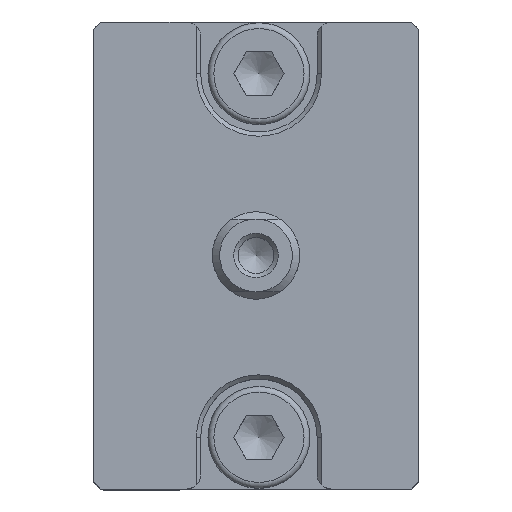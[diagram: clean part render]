
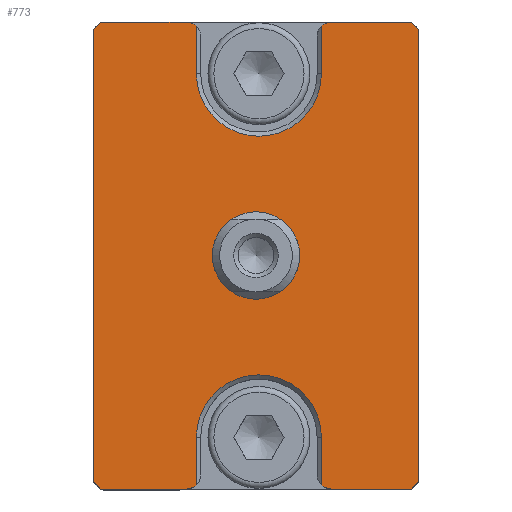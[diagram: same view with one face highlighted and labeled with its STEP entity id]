
A CAD part, top view. The second image highlights one B-rep face of the part: STEP entity #773.
In plain terms, the highlighted planar face has unit normal (0, 0, 1).
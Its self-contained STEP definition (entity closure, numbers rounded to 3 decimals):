
#184=CARTESIAN_POINT('',(10.417,15.55,12.));
#185=VERTEX_POINT('',#184);
#194=CARTESIAN_POINT('',(10.417,-15.55,12.));
#195=VERTEX_POINT('',#194);
#196=CARTESIAN_POINT('',(10.417,15.55,12.));
#197=DIRECTION('',(0.0,-1.0,0.0));
#198=VECTOR('',#197,31.1);
#199=LINE('',#196,#198);
#200=EDGE_CURVE('',#185,#195,#199,.T.);
#462=CARTESIAN_POINT('',(-11.483,-16.05,12.));
#463=VERTEX_POINT('',#462);
#464=CARTESIAN_POINT('',(-11.983,-15.55,12.));
#465=VERTEX_POINT('',#464);
#466=CARTESIAN_POINT('',(-11.483,-16.05,12.));
#467=DIRECTION('',(-0.707,0.707,0.0));
#468=VECTOR('',#467,0.707);
#469=LINE('',#466,#468);
#470=EDGE_CURVE('',#463,#465,#469,.T.);
#590=CARTESIAN_POINT('',(-11.983,15.55,12.));
#591=VERTEX_POINT('',#590);
#592=CARTESIAN_POINT('',(-11.983,-15.55,12.));
#593=DIRECTION('',(0.0,1.0,0.0));
#594=VECTOR('',#593,31.1);
#595=LINE('',#592,#594);
#596=EDGE_CURVE('',#465,#591,#595,.T.);
#614=CARTESIAN_POINT('',(-0.783,0.,12.));
#615=DIRECTION('',(0.0,0.0,1.0));
#616=DIRECTION('',(1.0,0.0,0.0));
#617=AXIS2_PLACEMENT_3D('',#614,#615,#616);
#618=PLANE('',#617);
#619=ORIENTED_EDGE('',*,*,#470,.F.);
#620=CARTESIAN_POINT('',(-5.583,-16.05,12.));
#621=VERTEX_POINT('',#620);
#622=CARTESIAN_POINT('',(-5.583,-16.05,12.));
#623=DIRECTION('',(-1.0,0.0,0.0));
#624=VECTOR('',#623,5.9);
#625=LINE('',#622,#624);
#626=EDGE_CURVE('',#621,#463,#625,.T.);
#627=ORIENTED_EDGE('',*,*,#626,.F.);
#628=CARTESIAN_POINT('',(-4.883,-15.764,12.));
#629=VERTEX_POINT('',#628);
#630=CARTESIAN_POINT('',(-5.583,-15.05,12.));
#631=DIRECTION('',(0.0,0.0,-1.0));
#632=DIRECTION('',(0.707,-0.707,0.0));
#633=AXIS2_PLACEMENT_3D('',#630,#631,#632);
#634=CIRCLE('',#633,1.0);
#635=EDGE_CURVE('',#629,#621,#634,.T.);
#636=ORIENTED_EDGE('',*,*,#635,.F.);
#637=CARTESIAN_POINT('',(-4.883,-12.5,12.));
#638=VERTEX_POINT('',#637);
#639=CARTESIAN_POINT('',(-4.883,-12.5,12.));
#640=DIRECTION('',(0.0,-1.0,0.0));
#641=VECTOR('',#640,3.264);
#642=LINE('',#639,#641);
#643=EDGE_CURVE('',#638,#629,#642,.T.);
#644=ORIENTED_EDGE('',*,*,#643,.F.);
#645=CARTESIAN_POINT('',(3.717,-12.5,12.));
#646=VERTEX_POINT('',#645);
#647=CARTESIAN_POINT('',(-0.583,-12.5,12.));
#648=DIRECTION('',(0.0,0.0,1.0));
#649=DIRECTION('',(1.0,0.0,0.0));
#650=AXIS2_PLACEMENT_3D('',#647,#648,#649);
#651=CIRCLE('',#650,4.3);
#652=EDGE_CURVE('',#646,#638,#651,.T.);
#653=ORIENTED_EDGE('',*,*,#652,.F.);
#654=CARTESIAN_POINT('',(3.717,-15.764,12.));
#655=VERTEX_POINT('',#654);
#656=CARTESIAN_POINT('',(3.717,-15.764,12.));
#657=DIRECTION('',(0.0,1.0,0.0));
#658=VECTOR('',#657,3.264);
#659=LINE('',#656,#658);
#660=EDGE_CURVE('',#655,#646,#659,.T.);
#661=ORIENTED_EDGE('',*,*,#660,.F.);
#662=CARTESIAN_POINT('',(4.417,-16.05,12.));
#663=VERTEX_POINT('',#662);
#664=CARTESIAN_POINT('',(4.417,-15.05,12.));
#665=DIRECTION('',(0.0,0.0,-1.0));
#666=DIRECTION('',(-0.707,-0.707,0.0));
#667=AXIS2_PLACEMENT_3D('',#664,#665,#666);
#668=CIRCLE('',#667,1.);
#669=EDGE_CURVE('',#663,#655,#668,.T.);
#670=ORIENTED_EDGE('',*,*,#669,.F.);
#671=CARTESIAN_POINT('',(9.917,-16.05,12.));
#672=VERTEX_POINT('',#671);
#673=CARTESIAN_POINT('',(9.917,-16.05,12.));
#674=DIRECTION('',(-1.0,0.0,0.0));
#675=VECTOR('',#674,5.5);
#676=LINE('',#673,#675);
#677=EDGE_CURVE('',#672,#663,#676,.T.);
#678=ORIENTED_EDGE('',*,*,#677,.F.);
#679=CARTESIAN_POINT('',(10.417,-15.55,12.));
#680=DIRECTION('',(-0.707,-0.707,0.0));
#681=VECTOR('',#680,0.707);
#682=LINE('',#679,#681);
#683=EDGE_CURVE('',#195,#672,#682,.T.);
#684=ORIENTED_EDGE('',*,*,#683,.F.);
#685=ORIENTED_EDGE('',*,*,#200,.F.);
#686=CARTESIAN_POINT('',(9.917,16.05,12.));
#687=VERTEX_POINT('',#686);
#688=CARTESIAN_POINT('',(9.917,16.05,12.));
#689=DIRECTION('',(0.707,-0.707,0.0));
#690=VECTOR('',#689,0.707);
#691=LINE('',#688,#690);
#692=EDGE_CURVE('',#687,#185,#691,.T.);
#693=ORIENTED_EDGE('',*,*,#692,.F.);
#694=CARTESIAN_POINT('',(4.417,16.05,12.));
#695=VERTEX_POINT('',#694);
#696=CARTESIAN_POINT('',(4.417,16.05,12.));
#697=DIRECTION('',(1.0,0.0,0.0));
#698=VECTOR('',#697,5.5);
#699=LINE('',#696,#698);
#700=EDGE_CURVE('',#695,#687,#699,.T.);
#701=ORIENTED_EDGE('',*,*,#700,.F.);
#702=CARTESIAN_POINT('',(3.717,15.764,12.));
#703=VERTEX_POINT('',#702);
#704=CARTESIAN_POINT('',(4.417,15.05,12.));
#705=DIRECTION('',(0.0,0.0,-1.0));
#706=DIRECTION('',(-0.707,0.707,0.0));
#707=AXIS2_PLACEMENT_3D('',#704,#705,#706);
#708=CIRCLE('',#707,1.);
#709=EDGE_CURVE('',#703,#695,#708,.T.);
#710=ORIENTED_EDGE('',*,*,#709,.F.);
#711=CARTESIAN_POINT('',(3.717,12.5,12.));
#712=VERTEX_POINT('',#711);
#713=CARTESIAN_POINT('',(3.717,12.5,12.));
#714=DIRECTION('',(0.0,1.0,0.0));
#715=VECTOR('',#714,3.264);
#716=LINE('',#713,#715);
#717=EDGE_CURVE('',#712,#703,#716,.T.);
#718=ORIENTED_EDGE('',*,*,#717,.F.);
#719=CARTESIAN_POINT('',(-4.883,12.5,12.));
#720=VERTEX_POINT('',#719);
#721=CARTESIAN_POINT('',(-0.583,12.5,12.));
#722=DIRECTION('',(0.0,0.0,1.0));
#723=DIRECTION('',(-1.0,0.0,0.0));
#724=AXIS2_PLACEMENT_3D('',#721,#722,#723);
#725=CIRCLE('',#724,4.3);
#726=EDGE_CURVE('',#720,#712,#725,.T.);
#727=ORIENTED_EDGE('',*,*,#726,.F.);
#728=CARTESIAN_POINT('',(-4.883,15.764,12.));
#729=VERTEX_POINT('',#728);
#730=CARTESIAN_POINT('',(-4.883,15.764,12.));
#731=DIRECTION('',(0.0,-1.0,0.0));
#732=VECTOR('',#731,3.264);
#733=LINE('',#730,#732);
#734=EDGE_CURVE('',#729,#720,#733,.T.);
#735=ORIENTED_EDGE('',*,*,#734,.F.);
#736=CARTESIAN_POINT('',(-5.583,16.05,12.));
#737=VERTEX_POINT('',#736);
#738=CARTESIAN_POINT('',(-5.583,15.05,12.));
#739=DIRECTION('',(0.0,0.0,-1.));
#740=DIRECTION('',(0.707,0.707,0.0));
#741=AXIS2_PLACEMENT_3D('',#738,#739,#740);
#742=CIRCLE('',#741,1.);
#743=EDGE_CURVE('',#737,#729,#742,.T.);
#744=ORIENTED_EDGE('',*,*,#743,.F.);
#745=CARTESIAN_POINT('',(-11.483,16.05,12.));
#746=VERTEX_POINT('',#745);
#747=CARTESIAN_POINT('',(-11.483,16.05,12.));
#748=DIRECTION('',(1.0,0.0,0.0));
#749=VECTOR('',#748,5.9);
#750=LINE('',#747,#749);
#751=EDGE_CURVE('',#746,#737,#750,.T.);
#752=ORIENTED_EDGE('',*,*,#751,.F.);
#753=CARTESIAN_POINT('',(-11.983,15.55,12.));
#754=DIRECTION('',(0.707,0.707,0.0));
#755=VECTOR('',#754,0.707);
#756=LINE('',#753,#755);
#757=EDGE_CURVE('',#591,#746,#756,.T.);
#758=ORIENTED_EDGE('',*,*,#757,.F.);
#759=ORIENTED_EDGE('',*,*,#596,.F.);
#760=EDGE_LOOP('',(#619,#627,#636,#644,#653,#661,#670,#678,#684,#685,#693,#701,#710,#718,#727,#735,#744,#752,#758,#759));
#761=FACE_OUTER_BOUND('',#760,.T.);
#762=CARTESIAN_POINT('',(-0.783,3.,12.));
#763=VERTEX_POINT('',#762);
#764=CARTESIAN_POINT('',(-0.783,0.,12.));
#765=DIRECTION('',(0.0,0.0,-1.0));
#766=DIRECTION('',(0.0,1.0,0.0));
#767=AXIS2_PLACEMENT_3D('',#764,#765,#766);
#768=CIRCLE('',#767,3.);
#769=EDGE_CURVE('',#763,#763,#768,.T.);
#770=ORIENTED_EDGE('',*,*,#769,.T.);
#771=EDGE_LOOP('',(#770));
#772=FACE_BOUND('',#771,.T.);
#773=ADVANCED_FACE('',(#761,#772),#618,.T.);
